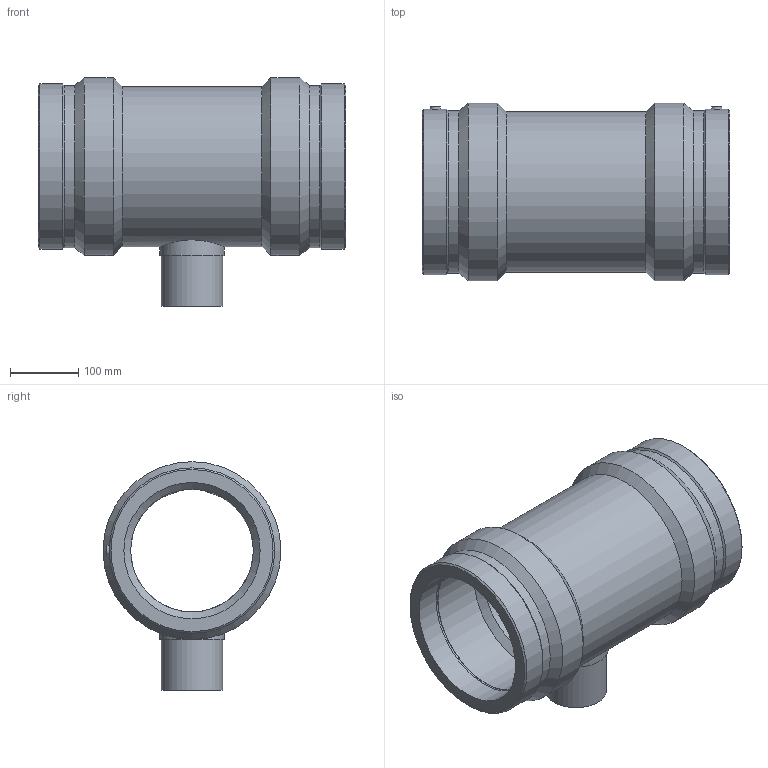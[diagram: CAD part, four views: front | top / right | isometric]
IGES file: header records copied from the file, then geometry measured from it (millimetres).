
Global section: file name: 491404200090.ipt; native system: Autodesk Inventor 2015; preprocessor: unknown; author: KIM; date: 20190909.112848; units: millimetre
Bounding box: 451 x 261 x 335.5 mm (x, y, z)
Volume: 8151347.8 mm3; surface area: 709722.9 mm2
Topology: 1 solids, 1 shells, 45 faces, 101 edges, 66 vertices
Faces by surface type: plane 12, revolution 12, cylinder 11, cone 10
Full cylindrical faces by diameter (mm): 4 x2, 90 x1, 94.5 x1, 234.9 x1, 237.875 x2, 242.73 x2, 261 x2
